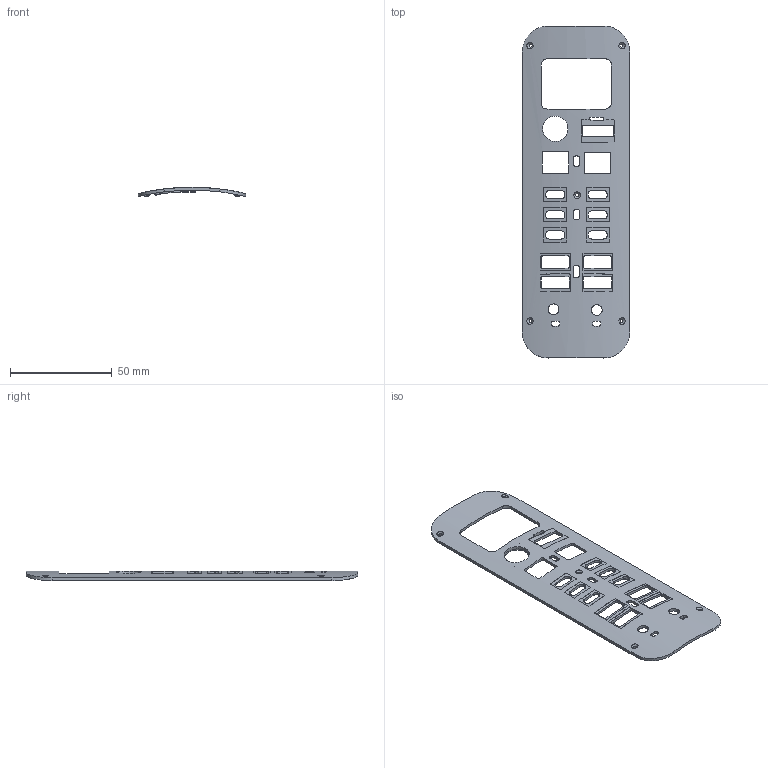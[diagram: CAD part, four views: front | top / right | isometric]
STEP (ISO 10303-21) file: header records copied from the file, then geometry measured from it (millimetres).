
FILE_DESCRIPTION(('Open CASCADE Model'),'2;1');
FILE_NAME('Open CASCADE Shape Model','2026-10-04T15:57:38',('Author'),( 'Open CASCADE'),'Open CASCADE STEP processor 7.9','Open CASCADE 7.9' ,'Unknown');
FILE_SCHEMA(('AUTOMOTIVE_DESIGN { 1 0 10303 214 1 1 1 1 }'));
Length unit declared in the file: millimetre
Products named in the file (1): Open CASCADE STEP translator 7.9 1
Bounding box: 52.7 x 163.1 x 4.7 mm (x, y, z)
Volume: 9132.9 mm3; surface area: 14803.4 mm2
Topology: 1 solids, 1 shells, 305 faces, 844 edges, 560 vertices
Faces by surface type: cylinder 156, plane 135, cone 14
Full cylindrical faces by diameter (mm): 1.1 x2, 1.8 x5, 2.6 x1, 2.8 x4, 5.3 x2, 12.4 x2
Entity records: 33040 total; most frequent: CARTESIAN_POINT 17645, DIRECTION 2379, ORIENTED_EDGE 1688, PCURVE 1688, DEFINITIONAL_REPRESENTATION 1688, LINE 1200, VECTOR 1200, B_SPLINE_CURVE_WITH_KNOTS 916
